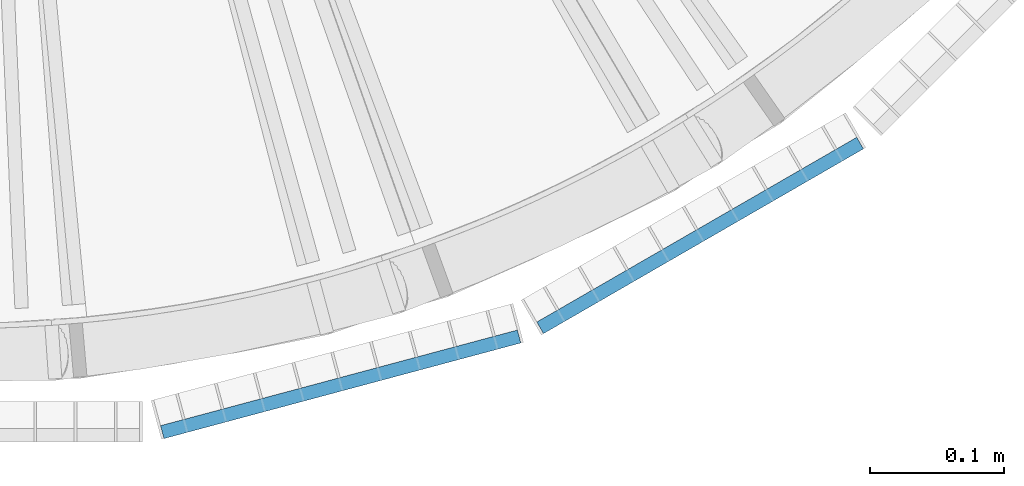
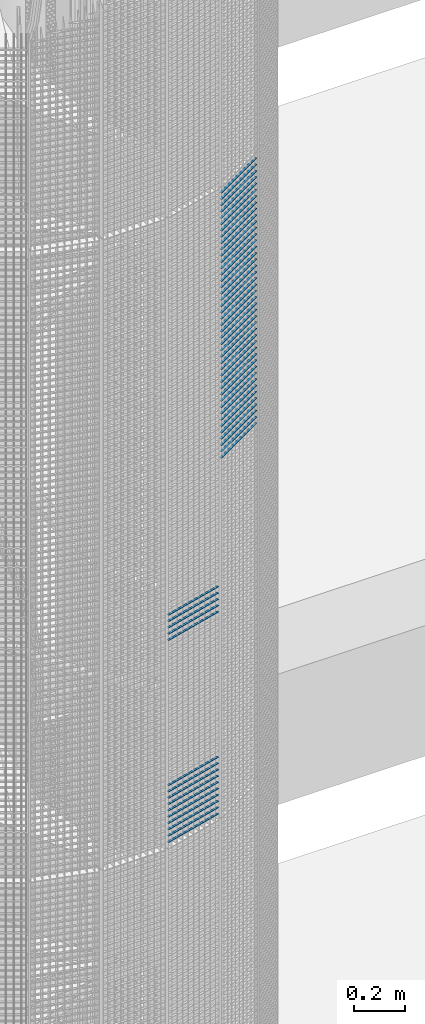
# One storey, part 400 of 1183: 58 beams, 2 elements without a shape of their own.
"""IFC2X3 building model written with IfcOpenShell, lengths in millimetres."""

from ifc_helpers import new_model, si_unit, frame, origin_with_axes, origin_2d_with_axis, place, context, subcontext, project, spatial, rectangle, extrude, material, type_object, element, aggregate, save


model = new_model("IFC2X3")

# Units and contexts
model_context = context("Model", 3, precision=1e-05, world=origin_with_axes())
body_context = subcontext(model_context, "Body", "Model", "MODEL_VIEW")
ifc_project = project(units=[si_unit("LENGTHUNIT", "METRE", prefix="MILLI"), si_unit("AREAUNIT", "SQUARE_METRE"), si_unit("VOLUMEUNIT", "CUBIC_METRE"), si_unit("MASSUNIT", "GRAM", prefix="KILO"), si_unit("TIMEUNIT", "SECOND"), si_unit("PLANEANGLEUNIT", "RADIAN"), si_unit("SOLIDANGLEUNIT", "STERADIAN"), si_unit("THERMODYNAMICTEMPERATUREUNIT", "DEGREE_CELSIUS"), si_unit("LUMINOUSINTENSITYUNIT", "LUMEN")], contexts=[model_context])

# Site, building, storey
site_placement = place(None, origin_with_axes())
site = spatial("IfcSite", under=ifc_project, at=site_placement, Name="Undefined", CompositionType="ELEMENT")
building_placement = place(site_placement, origin_with_axes())
building = spatial("IfcBuilding", under=site, at=building_placement, Name="Undefined", CompositionType="ELEMENT")
storey_placement = place(building_placement, origin_with_axes())
storey = spatial("IfcBuildingStorey", under=building, at=storey_placement, Name="Undefined", CompositionType="ELEMENT", Elevation=0.0)

# Assembly, beams
assembly_1_placement = place(storey_placement, origin_with_axes())
assembly_1 = element("IfcElementAssembly", 1, at=assembly_1_placement, inside=storey, Name="BORDURE", AssemblyPlace="NOTDEFINED", PredefinedType="NOTDEFINED")
ifc_material = material(Name="STEEL/S235JR")
beam_type = type_object("IfcBeamType", Name="PL2*10", PredefinedType="NOTDEFINED")
beam_1_placement = place(assembly_1_placement, frame((22021.4837339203, -1039.82309522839, 12300.0), z_axis=(0.258819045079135, -0.965925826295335, 0.0), x_axis=(-0.965925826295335, -0.258819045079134, 0.0)))
beam_1 = element("IfcBeam", 2, at=beam_1_placement, type_object=beam_type, material=ifc_material, Name="ENTRETOISE", context=body_context, shape_type="SweptSolid", body=[
    extrude(rectangle(XDim=2.0, YDim=10.0, at=origin_2d_with_axis()), frame((275.999999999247, 9.09494701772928e-13, 1.53210777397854e-14), z_axis=(-1.0, 0.0, 0.0), x_axis=(0.0, -1.0, 0.0)), (0.0, 0.0, 1.0), 276.0),
])
beam_2_placement = place(assembly_1_placement, frame((22021.4837339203, -1039.82309522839, 12270.0), z_axis=(0.258819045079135, -0.965925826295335, 0.0), x_axis=(-0.965925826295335, -0.258819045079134, 0.0)))
beam_2 = element("IfcBeam", 3, at=beam_2_placement, type_object=beam_type, material=ifc_material, Name="ENTRETOISE", context=body_context, shape_type="SweptSolid", body=[
    extrude(rectangle(XDim=2.0, YDim=10.0, at=origin_2d_with_axis()), frame((275.999999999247, 9.09494701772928e-13, 1.53210777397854e-14), z_axis=(-1.0, 0.0, 0.0), x_axis=(0.0, -1.0, 0.0)), (0.0, 0.0, 1.0), 276.0),
])
beam_3_placement = place(assembly_1_placement, frame((22021.4837339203, -1039.82309522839, 12990.0), z_axis=(0.258819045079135, -0.965925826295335, 0.0), x_axis=(-0.965925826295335, -0.258819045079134, 0.0)))
beam_3 = element("IfcBeam", 4, at=beam_3_placement, type_object=beam_type, material=ifc_material, Name="ENTRETOISE", context=body_context, shape_type="SweptSolid", body=[
    extrude(rectangle(XDim=2.0, YDim=10.0, at=origin_2d_with_axis()), frame((275.999999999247, 9.09494701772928e-13, 1.53210777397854e-14), z_axis=(-1.0, 0.0, 0.0), x_axis=(0.0, -1.0, 0.0)), (0.0, 0.0, 1.0), 276.0),
])
beam_4_placement = place(assembly_1_placement, frame((22021.4837339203, -1039.82309522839, 12240.0), z_axis=(0.258819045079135, -0.965925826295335, 0.0), x_axis=(-0.965925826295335, -0.258819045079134, 0.0)))
beam_4 = element("IfcBeam", 5, at=beam_4_placement, type_object=beam_type, material=ifc_material, Name="ENTRETOISE", context=body_context, shape_type="SweptSolid", body=[
    extrude(rectangle(XDim=2.0, YDim=10.0, at=origin_2d_with_axis()), frame((275.999999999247, 9.09494701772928e-13, 1.53210777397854e-14), z_axis=(-1.0, 0.0, 0.0), x_axis=(0.0, -1.0, 0.0)), (0.0, 0.0, 1.0), 276.0),
])
beam_5_placement = place(assembly_1_placement, frame((22021.4837339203, -1039.82309522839, 13020.0), z_axis=(0.258819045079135, -0.965925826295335, 0.0), x_axis=(-0.965925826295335, -0.258819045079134, 0.0)))
beam_5 = element("IfcBeam", 6, at=beam_5_placement, type_object=beam_type, material=ifc_material, Name="ENTRETOISE", context=body_context, shape_type="SweptSolid", body=[
    extrude(rectangle(XDim=2.0, YDim=10.0, at=origin_2d_with_axis()), frame((275.999999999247, 9.09494701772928e-13, 1.53210777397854e-14), z_axis=(-1.0, 0.0, 0.0), x_axis=(0.0, -1.0, 0.0)), (0.0, 0.0, 1.0), 276.0),
])
beam_6_placement = place(assembly_1_placement, frame((22021.4837339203, -1039.82309522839, 12210.0), z_axis=(0.258819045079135, -0.965925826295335, 0.0), x_axis=(-0.965925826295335, -0.258819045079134, 0.0)))
beam_6 = element("IfcBeam", 7, at=beam_6_placement, type_object=beam_type, material=ifc_material, Name="ENTRETOISE", context=body_context, shape_type="SweptSolid", body=[
    extrude(rectangle(XDim=2.0, YDim=10.0, at=origin_2d_with_axis()), frame((275.999999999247, 9.09494701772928e-13, 1.53210777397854e-14), z_axis=(-1.0, 0.0, 0.0), x_axis=(0.0, -1.0, 0.0)), (0.0, 0.0, 1.0), 276.0),
])
beam_7_placement = place(assembly_1_placement, frame((22021.4837339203, -1039.82309522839, 12180.0), z_axis=(0.258819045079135, -0.965925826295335, 0.0), x_axis=(-0.965925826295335, -0.258819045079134, 0.0)))
beam_7 = element("IfcBeam", 8, at=beam_7_placement, type_object=beam_type, material=ifc_material, Name="ENTRETOISE", context=body_context, shape_type="SweptSolid", body=[
    extrude(rectangle(XDim=2.0, YDim=10.0, at=origin_2d_with_axis()), frame((275.999999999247, 9.09494701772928e-13, 1.53210777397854e-14), z_axis=(-1.0, 0.0, 0.0), x_axis=(0.0, -1.0, 0.0)), (0.0, 0.0, 1.0), 276.0),
])
beam_8_placement = place(assembly_1_placement, frame((22021.4837339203, -1039.82309522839, 13050.0), z_axis=(0.258819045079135, -0.965925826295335, 0.0), x_axis=(-0.965925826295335, -0.258819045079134, 0.0)))
beam_8 = element("IfcBeam", 9, at=beam_8_placement, type_object=beam_type, material=ifc_material, Name="ENTRETOISE", context=body_context, shape_type="SweptSolid", body=[
    extrude(rectangle(XDim=2.0, YDim=10.0, at=origin_2d_with_axis()), frame((275.999999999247, 9.09494701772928e-13, 1.53210777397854e-14), z_axis=(-1.0, 0.0, 0.0), x_axis=(0.0, -1.0, 0.0)), (0.0, 0.0, 1.0), 276.0),
])
beam_9_placement = place(assembly_1_placement, frame((22021.4837339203, -1039.82309522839, 12150.0), z_axis=(0.258819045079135, -0.965925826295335, 0.0), x_axis=(-0.965925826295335, -0.258819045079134, 0.0)))
beam_9 = element("IfcBeam", 10, at=beam_9_placement, type_object=beam_type, material=ifc_material, Name="ENTRETOISE", context=body_context, shape_type="SweptSolid", body=[
    extrude(rectangle(XDim=2.0, YDim=10.0, at=origin_2d_with_axis()), frame((275.999999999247, 9.09494701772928e-13, 1.53210777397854e-14), z_axis=(-1.0, 0.0, 0.0), x_axis=(0.0, -1.0, 0.0)), (0.0, 0.0, 1.0), 276.0),
])
beam_10_placement = place(assembly_1_placement, frame((22021.4837339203, -1039.82309522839, 12120.0), z_axis=(0.258819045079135, -0.965925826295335, 0.0), x_axis=(-0.965925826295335, -0.258819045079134, 0.0)))
beam_10 = element("IfcBeam", 11, at=beam_10_placement, type_object=beam_type, material=ifc_material, Name="ENTRETOISE", context=body_context, shape_type="SweptSolid", body=[
    extrude(rectangle(XDim=2.0, YDim=10.0, at=origin_2d_with_axis()), frame((275.999999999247, 9.09494701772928e-13, 1.53210777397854e-14), z_axis=(-1.0, 0.0, 0.0), x_axis=(0.0, -1.0, 0.0)), (0.0, 0.0, 1.0), 276.0),
])
beam_11_placement = place(assembly_1_placement, frame((22021.4837339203, -1039.82309522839, 13080.0), z_axis=(0.258819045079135, -0.965925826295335, 0.0), x_axis=(-0.965925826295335, -0.258819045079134, 0.0)))
beam_11 = element("IfcBeam", 12, at=beam_11_placement, type_object=beam_type, material=ifc_material, Name="ENTRETOISE", context=body_context, shape_type="SweptSolid", body=[
    extrude(rectangle(XDim=2.0, YDim=10.0, at=origin_2d_with_axis()), frame((275.999999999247, 9.09494701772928e-13, 1.53210777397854e-14), z_axis=(-1.0, 0.0, 0.0), x_axis=(0.0, -1.0, 0.0)), (0.0, 0.0, 1.0), 276.0),
])
beam_12_placement = place(assembly_1_placement, frame((22021.4837339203, -1039.82309522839, 12090.0), z_axis=(0.258819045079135, -0.965925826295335, 0.0), x_axis=(-0.965925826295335, -0.258819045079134, 0.0)))
beam_12 = element("IfcBeam", 13, at=beam_12_placement, type_object=beam_type, material=ifc_material, Name="ENTRETOISE", context=body_context, shape_type="SweptSolid", body=[
    extrude(rectangle(XDim=2.0, YDim=10.0, at=origin_2d_with_axis()), frame((275.999999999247, 9.09494701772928e-13, 1.53210777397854e-14), z_axis=(-1.0, 0.0, 0.0), x_axis=(0.0, -1.0, 0.0)), (0.0, 0.0, 1.0), 276.0),
])
beam_13_placement = place(assembly_1_placement, frame((22021.4837339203, -1039.82309522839, 12060.0), z_axis=(0.258819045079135, -0.965925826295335, 0.0), x_axis=(-0.965925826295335, -0.258819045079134, 0.0)))
beam_13 = element("IfcBeam", 14, at=beam_13_placement, type_object=beam_type, material=ifc_material, Name="ENTRETOISE", context=body_context, shape_type="SweptSolid", body=[
    extrude(rectangle(XDim=2.0, YDim=10.0, at=origin_2d_with_axis()), frame((275.999999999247, 9.09494701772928e-13, 1.53210777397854e-14), z_axis=(-1.0, 0.0, 0.0), x_axis=(0.0, -1.0, 0.0)), (0.0, 0.0, 1.0), 276.0),
])
beam_14_placement = place(assembly_1_placement, frame((22021.4837339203, -1039.82309522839, 13110.0), z_axis=(0.258819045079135, -0.965925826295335, 0.0), x_axis=(-0.965925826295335, -0.258819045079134, 0.0)))
beam_14 = element("IfcBeam", 15, at=beam_14_placement, type_object=beam_type, material=ifc_material, Name="ENTRETOISE", context=body_context, shape_type="SweptSolid", body=[
    extrude(rectangle(XDim=2.0, YDim=10.0, at=origin_2d_with_axis()), frame((275.999999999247, 9.09494701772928e-13, 1.53210777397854e-14), z_axis=(-1.0, 0.0, 0.0), x_axis=(0.0, -1.0, 0.0)), (0.0, 0.0, 1.0), 276.0),
])
beam_15_placement = place(assembly_1_placement, frame((22021.4837339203, -1039.82309522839, 12030.0), z_axis=(0.258819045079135, -0.965925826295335, 0.0), x_axis=(-0.965925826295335, -0.258819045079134, 0.0)))
beam_15 = element("IfcBeam", 16, at=beam_15_placement, type_object=beam_type, material=ifc_material, Name="ENTRETOISE", context=body_context, shape_type="SweptSolid", body=[
    extrude(rectangle(XDim=2.0, YDim=10.0, at=origin_2d_with_axis()), frame((275.999999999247, 9.09494701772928e-13, 1.53210777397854e-14), z_axis=(-1.0, 0.0, 0.0), x_axis=(0.0, -1.0, 0.0)), (0.0, 0.0, 1.0), 276.0),
])
aggregate(assembly_1, [beam_1, beam_2, beam_3, beam_4, beam_5, beam_6, beam_7, beam_8, beam_9, beam_10, beam_11, beam_12, beam_13, beam_14, beam_15])

assembly_2_placement = place(storey_placement, origin_with_axes())
assembly_2 = element("IfcElementAssembly", 17, at=assembly_2_placement, inside=storey, Name="BORDURE", AssemblyPlace="NOTDEFINED", PredefinedType="NOTDEFINED")
beam_16_placement = place(assembly_2_placement, frame((22276.2480445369, -895.303964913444, 14970.0), z_axis=(0.499999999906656, -0.866025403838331, 0.0), x_axis=(-0.866025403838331, -0.499999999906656, 0.0)))
beam_16 = element("IfcBeam", 18, at=beam_16_placement, type_object=beam_type, material=ifc_material, Name="ENTRETOISE", context=body_context, shape_type="SweptSolid", body=[
    extrude(rectangle(XDim=2.0, YDim=10.0, at=origin_2d_with_axis()), frame((275.999999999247, 9.09494701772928e-13, 1.53210777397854e-14), z_axis=(-1.0, 0.0, 0.0), x_axis=(0.0, -1.0, 0.0)), (0.0, 0.0, 1.0), 276.0),
])
beam_17_placement = place(assembly_2_placement, frame((22276.2480445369, -895.303964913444, 14940.0), z_axis=(0.499999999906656, -0.866025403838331, 0.0), x_axis=(-0.866025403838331, -0.499999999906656, 0.0)))
beam_17 = element("IfcBeam", 19, at=beam_17_placement, type_object=beam_type, material=ifc_material, Name="ENTRETOISE", context=body_context, shape_type="SweptSolid", body=[
    extrude(rectangle(XDim=2.0, YDim=10.0, at=origin_2d_with_axis()), frame((275.999999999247, 9.09494701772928e-13, 1.53210777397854e-14), z_axis=(-1.0, 0.0, 0.0), x_axis=(0.0, -1.0, 0.0)), (0.0, 0.0, 1.0), 276.0),
])
beam_18_placement = place(assembly_2_placement, frame((22276.2480445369, -895.303964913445, 14910.0), z_axis=(0.499999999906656, -0.866025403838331, 0.0), x_axis=(-0.866025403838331, -0.499999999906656, 0.0)))
beam_18 = element("IfcBeam", 20, at=beam_18_placement, type_object=beam_type, material=ifc_material, Name="ENTRETOISE", context=body_context, shape_type="SweptSolid", body=[
    extrude(rectangle(XDim=2.0, YDim=10.0, at=origin_2d_with_axis()), frame((275.999999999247, 9.09494701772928e-13, 1.53210777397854e-14), z_axis=(-1.0, 0.0, 0.0), x_axis=(0.0, -1.0, 0.0)), (0.0, 0.0, 1.0), 276.0),
])
beam_19_placement = place(assembly_2_placement, frame((22276.2480445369, -895.303964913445, 14880.0), z_axis=(0.499999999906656, -0.866025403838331, 0.0), x_axis=(-0.866025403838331, -0.499999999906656, 0.0)))
beam_19 = element("IfcBeam", 21, at=beam_19_placement, type_object=beam_type, material=ifc_material, Name="ENTRETOISE", context=body_context, shape_type="SweptSolid", body=[
    extrude(rectangle(XDim=2.0, YDim=10.0, at=origin_2d_with_axis()), frame((275.999999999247, 9.09494701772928e-13, 1.53210777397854e-14), z_axis=(-1.0, 0.0, 0.0), x_axis=(0.0, -1.0, 0.0)), (0.0, 0.0, 1.0), 276.0),
])
beam_20_placement = place(assembly_2_placement, frame((22276.2480445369, -895.303964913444, 14850.0), z_axis=(0.499999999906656, -0.866025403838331, 0.0), x_axis=(-0.866025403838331, -0.499999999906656, 0.0)))
beam_20 = element("IfcBeam", 22, at=beam_20_placement, type_object=beam_type, material=ifc_material, Name="ENTRETOISE", context=body_context, shape_type="SweptSolid", body=[
    extrude(rectangle(XDim=2.0, YDim=10.0, at=origin_2d_with_axis()), frame((275.999999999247, 9.09494701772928e-13, 1.53210777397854e-14), z_axis=(-1.0, 0.0, 0.0), x_axis=(0.0, -1.0, 0.0)), (0.0, 0.0, 1.0), 276.0),
])
beam_21_placement = place(assembly_2_placement, frame((22276.2480445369, -895.303964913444, 14820.0), z_axis=(0.499999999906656, -0.866025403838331, 0.0), x_axis=(-0.866025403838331, -0.499999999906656, 0.0)))
beam_21 = element("IfcBeam", 23, at=beam_21_placement, type_object=beam_type, material=ifc_material, Name="ENTRETOISE", context=body_context, shape_type="SweptSolid", body=[
    extrude(rectangle(XDim=2.0, YDim=10.0, at=origin_2d_with_axis()), frame((275.999999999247, 9.09494701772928e-13, 1.53210777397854e-14), z_axis=(-1.0, 0.0, 0.0), x_axis=(0.0, -1.0, 0.0)), (0.0, 0.0, 1.0), 276.0),
])
beam_22_placement = place(assembly_2_placement, frame((22276.2480445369, -895.303964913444, 14790.0), z_axis=(0.499999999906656, -0.866025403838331, 0.0), x_axis=(-0.866025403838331, -0.499999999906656, 0.0)))
beam_22 = element("IfcBeam", 24, at=beam_22_placement, type_object=beam_type, material=ifc_material, Name="ENTRETOISE", context=body_context, shape_type="SweptSolid", body=[
    extrude(rectangle(XDim=2.0, YDim=10.0, at=origin_2d_with_axis()), frame((275.999999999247, 9.09494701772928e-13, 1.53210777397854e-14), z_axis=(-1.0, 0.0, 0.0), x_axis=(0.0, -1.0, 0.0)), (0.0, 0.0, 1.0), 276.0),
])
beam_23_placement = place(assembly_2_placement, frame((22276.2480445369, -895.303964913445, 14760.0), z_axis=(0.499999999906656, -0.866025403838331, 0.0), x_axis=(-0.866025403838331, -0.499999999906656, 0.0)))
beam_23 = element("IfcBeam", 25, at=beam_23_placement, type_object=beam_type, material=ifc_material, Name="ENTRETOISE", context=body_context, shape_type="SweptSolid", body=[
    extrude(rectangle(XDim=2.0, YDim=10.0, at=origin_2d_with_axis()), frame((275.999999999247, 9.09494701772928e-13, 1.53210777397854e-14), z_axis=(-1.0, 0.0, 0.0), x_axis=(0.0, -1.0, 0.0)), (0.0, 0.0, 1.0), 276.0),
])
beam_24_placement = place(assembly_2_placement, frame((22276.2480445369, -895.303964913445, 14730.0), z_axis=(0.499999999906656, -0.866025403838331, 0.0), x_axis=(-0.866025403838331, -0.499999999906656, 0.0)))
beam_24 = element("IfcBeam", 26, at=beam_24_placement, type_object=beam_type, material=ifc_material, Name="ENTRETOISE", context=body_context, shape_type="SweptSolid", body=[
    extrude(rectangle(XDim=2.0, YDim=10.0, at=origin_2d_with_axis()), frame((275.999999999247, 9.09494701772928e-13, 1.53210777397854e-14), z_axis=(-1.0, 0.0, 0.0), x_axis=(0.0, -1.0, 0.0)), (0.0, 0.0, 1.0), 276.0),
])
beam_25_placement = place(assembly_2_placement, frame((22276.2480445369, -895.303964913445, 14700.0), z_axis=(0.499999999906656, -0.866025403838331, 0.0), x_axis=(-0.866025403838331, -0.499999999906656, 0.0)))
beam_25 = element("IfcBeam", 27, at=beam_25_placement, type_object=beam_type, material=ifc_material, Name="ENTRETOISE", context=body_context, shape_type="SweptSolid", body=[
    extrude(rectangle(XDim=2.0, YDim=10.0, at=origin_2d_with_axis()), frame((275.999999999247, 9.09494701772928e-13, 1.53210777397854e-14), z_axis=(-1.0, 0.0, 0.0), x_axis=(0.0, -1.0, 0.0)), (0.0, 0.0, 1.0), 276.0),
])
beam_26_placement = place(assembly_2_placement, frame((22276.2480445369, -895.303964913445, 14670.0), z_axis=(0.499999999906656, -0.866025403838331, 0.0), x_axis=(-0.866025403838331, -0.499999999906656, 0.0)))
beam_26 = element("IfcBeam", 28, at=beam_26_placement, type_object=beam_type, material=ifc_material, Name="ENTRETOISE", context=body_context, shape_type="SweptSolid", body=[
    extrude(rectangle(XDim=2.0, YDim=10.0, at=origin_2d_with_axis()), frame((275.999999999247, 9.09494701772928e-13, 1.53210777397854e-14), z_axis=(-1.0, 0.0, 0.0), x_axis=(0.0, -1.0, 0.0)), (0.0, 0.0, 1.0), 276.0),
])
beam_27_placement = place(assembly_2_placement, frame((22276.2480445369, -895.303964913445, 14640.0), z_axis=(0.499999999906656, -0.866025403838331, 0.0), x_axis=(-0.866025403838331, -0.499999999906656, 0.0)))
beam_27 = element("IfcBeam", 29, at=beam_27_placement, type_object=beam_type, material=ifc_material, Name="ENTRETOISE", context=body_context, shape_type="SweptSolid", body=[
    extrude(rectangle(XDim=2.0, YDim=10.0, at=origin_2d_with_axis()), frame((275.999999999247, 9.09494701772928e-13, 1.53210777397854e-14), z_axis=(-1.0, 0.0, 0.0), x_axis=(0.0, -1.0, 0.0)), (0.0, 0.0, 1.0), 276.0),
])
beam_28_placement = place(assembly_2_placement, frame((22276.2480445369, -895.303964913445, 14610.0), z_axis=(0.499999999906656, -0.866025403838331, 0.0), x_axis=(-0.866025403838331, -0.499999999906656, 0.0)))
beam_28 = element("IfcBeam", 30, at=beam_28_placement, type_object=beam_type, material=ifc_material, Name="ENTRETOISE", context=body_context, shape_type="SweptSolid", body=[
    extrude(rectangle(XDim=2.0, YDim=10.0, at=origin_2d_with_axis()), frame((275.999999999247, 9.09494701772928e-13, 1.53210777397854e-14), z_axis=(-1.0, 0.0, 0.0), x_axis=(0.0, -1.0, 0.0)), (0.0, 0.0, 1.0), 276.0),
])
beam_29_placement = place(assembly_2_placement, frame((22276.2480445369, -895.303964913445, 14580.0), z_axis=(0.499999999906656, -0.866025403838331, 0.0), x_axis=(-0.866025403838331, -0.499999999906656, 0.0)))
beam_29 = element("IfcBeam", 31, at=beam_29_placement, type_object=beam_type, material=ifc_material, Name="ENTRETOISE", context=body_context, shape_type="SweptSolid", body=[
    extrude(rectangle(XDim=2.0, YDim=10.0, at=origin_2d_with_axis()), frame((275.999999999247, 9.09494701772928e-13, 1.53210777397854e-14), z_axis=(-1.0, 0.0, 0.0), x_axis=(0.0, -1.0, 0.0)), (0.0, 0.0, 1.0), 276.0),
])
beam_30_placement = place(assembly_2_placement, frame((22276.2480445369, -895.303964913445, 14550.0), z_axis=(0.499999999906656, -0.866025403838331, 0.0), x_axis=(-0.866025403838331, -0.499999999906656, 0.0)))
beam_30 = element("IfcBeam", 32, at=beam_30_placement, type_object=beam_type, material=ifc_material, Name="ENTRETOISE", context=body_context, shape_type="SweptSolid", body=[
    extrude(rectangle(XDim=2.0, YDim=10.0, at=origin_2d_with_axis()), frame((275.999999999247, 9.09494701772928e-13, 1.53210777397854e-14), z_axis=(-1.0, 0.0, 0.0), x_axis=(0.0, -1.0, 0.0)), (0.0, 0.0, 1.0), 276.0),
])
beam_31_placement = place(assembly_2_placement, frame((22276.2480445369, -895.303964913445, 14520.0), z_axis=(0.499999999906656, -0.866025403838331, 0.0), x_axis=(-0.866025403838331, -0.499999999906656, 0.0)))
beam_31 = element("IfcBeam", 33, at=beam_31_placement, type_object=beam_type, material=ifc_material, Name="ENTRETOISE", context=body_context, shape_type="SweptSolid", body=[
    extrude(rectangle(XDim=2.0, YDim=10.0, at=origin_2d_with_axis()), frame((275.999999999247, 9.09494701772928e-13, 1.53210777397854e-14), z_axis=(-1.0, 0.0, 0.0), x_axis=(0.0, -1.0, 0.0)), (0.0, 0.0, 1.0), 276.0),
])
beam_32_placement = place(assembly_2_placement, frame((22276.2480445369, -895.303964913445, 14490.0), z_axis=(0.499999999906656, -0.866025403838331, 0.0), x_axis=(-0.866025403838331, -0.499999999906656, 0.0)))
beam_32 = element("IfcBeam", 34, at=beam_32_placement, type_object=beam_type, material=ifc_material, Name="ENTRETOISE", context=body_context, shape_type="SweptSolid", body=[
    extrude(rectangle(XDim=2.0, YDim=10.0, at=origin_2d_with_axis()), frame((275.999999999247, 9.09494701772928e-13, 1.53210777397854e-14), z_axis=(-1.0, 0.0, 0.0), x_axis=(0.0, -1.0, 0.0)), (0.0, 0.0, 1.0), 276.0),
])
beam_33_placement = place(assembly_2_placement, frame((22276.2480445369, -895.303964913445, 14460.0), z_axis=(0.499999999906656, -0.866025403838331, 0.0), x_axis=(-0.866025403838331, -0.499999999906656, 0.0)))
beam_33 = element("IfcBeam", 35, at=beam_33_placement, type_object=beam_type, material=ifc_material, Name="ENTRETOISE", context=body_context, shape_type="SweptSolid", body=[
    extrude(rectangle(XDim=2.0, YDim=10.0, at=origin_2d_with_axis()), frame((275.999999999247, 9.09494701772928e-13, 1.53210777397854e-14), z_axis=(-1.0, 0.0, 0.0), x_axis=(0.0, -1.0, 0.0)), (0.0, 0.0, 1.0), 276.0),
])
beam_34_placement = place(assembly_2_placement, frame((22276.2480445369, -895.303964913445, 14430.0), z_axis=(0.499999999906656, -0.866025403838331, 0.0), x_axis=(-0.866025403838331, -0.499999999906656, 0.0)))
beam_34 = element("IfcBeam", 36, at=beam_34_placement, type_object=beam_type, material=ifc_material, Name="ENTRETOISE", context=body_context, shape_type="SweptSolid", body=[
    extrude(rectangle(XDim=2.0, YDim=10.0, at=origin_2d_with_axis()), frame((275.999999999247, 9.09494701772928e-13, 1.53210777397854e-14), z_axis=(-1.0, 0.0, 0.0), x_axis=(0.0, -1.0, 0.0)), (0.0, 0.0, 1.0), 276.0),
])
beam_35_placement = place(assembly_2_placement, frame((22276.2480445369, -895.303964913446, 14400.0), z_axis=(0.499999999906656, -0.866025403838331, 0.0), x_axis=(-0.866025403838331, -0.499999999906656, 0.0)))
beam_35 = element("IfcBeam", 37, at=beam_35_placement, type_object=beam_type, material=ifc_material, Name="ENTRETOISE", context=body_context, shape_type="SweptSolid", body=[
    extrude(rectangle(XDim=2.0, YDim=10.0, at=origin_2d_with_axis()), frame((275.999999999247, 9.09494701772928e-13, 1.53210777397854e-14), z_axis=(-1.0, 0.0, 0.0), x_axis=(0.0, -1.0, 0.0)), (0.0, 0.0, 1.0), 276.0),
])
beam_36_placement = place(assembly_2_placement, frame((22276.2480445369, -895.303964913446, 14370.0), z_axis=(0.499999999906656, -0.866025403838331, 0.0), x_axis=(-0.866025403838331, -0.499999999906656, 0.0)))
beam_36 = element("IfcBeam", 38, at=beam_36_placement, type_object=beam_type, material=ifc_material, Name="ENTRETOISE", context=body_context, shape_type="SweptSolid", body=[
    extrude(rectangle(XDim=2.0, YDim=10.0, at=origin_2d_with_axis()), frame((275.999999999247, 9.09494701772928e-13, 1.53210777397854e-14), z_axis=(-1.0, 0.0, 0.0), x_axis=(0.0, -1.0, 0.0)), (0.0, 0.0, 1.0), 276.0),
])
beam_37_placement = place(assembly_2_placement, frame((22276.2480445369, -895.303964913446, 14340.0), z_axis=(0.499999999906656, -0.866025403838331, 0.0), x_axis=(-0.866025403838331, -0.499999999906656, 0.0)))
beam_37 = element("IfcBeam", 39, at=beam_37_placement, type_object=beam_type, material=ifc_material, Name="ENTRETOISE", context=body_context, shape_type="SweptSolid", body=[
    extrude(rectangle(XDim=2.0, YDim=10.0, at=origin_2d_with_axis()), frame((275.999999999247, 9.09494701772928e-13, 1.53210777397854e-14), z_axis=(-1.0, 0.0, 0.0), x_axis=(0.0, -1.0, 0.0)), (0.0, 0.0, 1.0), 276.0),
])
beam_38_placement = place(assembly_2_placement, frame((22276.2480445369, -895.303964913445, 14310.0), z_axis=(0.499999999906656, -0.866025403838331, 0.0), x_axis=(-0.866025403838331, -0.499999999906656, 0.0)))
beam_38 = element("IfcBeam", 40, at=beam_38_placement, type_object=beam_type, material=ifc_material, Name="ENTRETOISE", context=body_context, shape_type="SweptSolid", body=[
    extrude(rectangle(XDim=2.0, YDim=10.0, at=origin_2d_with_axis()), frame((275.999999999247, 9.09494701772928e-13, 1.53210777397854e-14), z_axis=(-1.0, 0.0, 0.0), x_axis=(0.0, -1.0, 0.0)), (0.0, 0.0, 1.0), 276.0),
])
beam_39_placement = place(assembly_2_placement, frame((22276.2480445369, -895.303964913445, 14280.0), z_axis=(0.499999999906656, -0.866025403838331, 0.0), x_axis=(-0.866025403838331, -0.499999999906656, 0.0)))
beam_39 = element("IfcBeam", 41, at=beam_39_placement, type_object=beam_type, material=ifc_material, Name="ENTRETOISE", context=body_context, shape_type="SweptSolid", body=[
    extrude(rectangle(XDim=2.0, YDim=10.0, at=origin_2d_with_axis()), frame((275.999999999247, 9.09494701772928e-13, 1.53210777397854e-14), z_axis=(-1.0, 0.0, 0.0), x_axis=(0.0, -1.0, 0.0)), (0.0, 0.0, 1.0), 276.0),
])
beam_40_placement = place(assembly_2_placement, frame((22276.2480445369, -895.303964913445, 14250.0), z_axis=(0.499999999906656, -0.866025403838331, 0.0), x_axis=(-0.866025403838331, -0.499999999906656, 0.0)))
beam_40 = element("IfcBeam", 42, at=beam_40_placement, type_object=beam_type, material=ifc_material, Name="ENTRETOISE", context=body_context, shape_type="SweptSolid", body=[
    extrude(rectangle(XDim=2.0, YDim=10.0, at=origin_2d_with_axis()), frame((275.999999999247, 9.09494701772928e-13, 1.53210777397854e-14), z_axis=(-1.0, 0.0, 0.0), x_axis=(0.0, -1.0, 0.0)), (0.0, 0.0, 1.0), 276.0),
])
beam_41_placement = place(assembly_2_placement, frame((22276.2480445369, -895.303964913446, 14220.0), z_axis=(0.499999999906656, -0.866025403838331, 0.0), x_axis=(-0.866025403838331, -0.499999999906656, 0.0)))
beam_41 = element("IfcBeam", 43, at=beam_41_placement, type_object=beam_type, material=ifc_material, Name="ENTRETOISE", context=body_context, shape_type="SweptSolid", body=[
    extrude(rectangle(XDim=2.0, YDim=10.0, at=origin_2d_with_axis()), frame((275.999999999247, 9.09494701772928e-13, 1.53210777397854e-14), z_axis=(-1.0, 0.0, 0.0), x_axis=(0.0, -1.0, 0.0)), (0.0, 0.0, 1.0), 276.0),
])
beam_42_placement = place(assembly_2_placement, frame((22276.2480445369, -895.303964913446, 14190.0), z_axis=(0.499999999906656, -0.866025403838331, 0.0), x_axis=(-0.866025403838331, -0.499999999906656, 0.0)))
beam_42 = element("IfcBeam", 44, at=beam_42_placement, type_object=beam_type, material=ifc_material, Name="ENTRETOISE", context=body_context, shape_type="SweptSolid", body=[
    extrude(rectangle(XDim=2.0, YDim=10.0, at=origin_2d_with_axis()), frame((275.999999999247, 9.09494701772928e-13, 1.53210777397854e-14), z_axis=(-1.0, 0.0, 0.0), x_axis=(0.0, -1.0, 0.0)), (0.0, 0.0, 1.0), 276.0),
])
beam_43_placement = place(assembly_2_placement, frame((22276.2480445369, -895.303964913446, 14160.0), z_axis=(0.499999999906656, -0.866025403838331, 0.0), x_axis=(-0.866025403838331, -0.499999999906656, 0.0)))
beam_43 = element("IfcBeam", 45, at=beam_43_placement, type_object=beam_type, material=ifc_material, Name="ENTRETOISE", context=body_context, shape_type="SweptSolid", body=[
    extrude(rectangle(XDim=2.0, YDim=10.0, at=origin_2d_with_axis()), frame((275.999999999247, 9.09494701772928e-13, 1.53210777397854e-14), z_axis=(-1.0, 0.0, 0.0), x_axis=(0.0, -1.0, 0.0)), (0.0, 0.0, 1.0), 276.0),
])
beam_44_placement = place(assembly_2_placement, frame((22276.2480445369, -895.303964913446, 14130.0), z_axis=(0.499999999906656, -0.866025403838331, 0.0), x_axis=(-0.866025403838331, -0.499999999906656, 0.0)))
beam_44 = element("IfcBeam", 46, at=beam_44_placement, type_object=beam_type, material=ifc_material, Name="ENTRETOISE", context=body_context, shape_type="SweptSolid", body=[
    extrude(rectangle(XDim=2.0, YDim=10.0, at=origin_2d_with_axis()), frame((275.999999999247, 9.09494701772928e-13, 1.53210777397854e-14), z_axis=(-1.0, 0.0, 0.0), x_axis=(0.0, -1.0, 0.0)), (0.0, 0.0, 1.0), 276.0),
])
beam_45_placement = place(assembly_2_placement, frame((22276.2480445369, -895.303964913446, 14100.0), z_axis=(0.499999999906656, -0.866025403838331, 0.0), x_axis=(-0.866025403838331, -0.499999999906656, 0.0)))
beam_45 = element("IfcBeam", 47, at=beam_45_placement, type_object=beam_type, material=ifc_material, Name="ENTRETOISE", context=body_context, shape_type="SweptSolid", body=[
    extrude(rectangle(XDim=2.0, YDim=10.0, at=origin_2d_with_axis()), frame((275.999999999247, 9.09494701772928e-13, 1.53210777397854e-14), z_axis=(-1.0, 0.0, 0.0), x_axis=(0.0, -1.0, 0.0)), (0.0, 0.0, 1.0), 276.0),
])
beam_46_placement = place(assembly_2_placement, frame((22276.2480445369, -895.303964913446, 14070.0), z_axis=(0.499999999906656, -0.866025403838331, 0.0), x_axis=(-0.866025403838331, -0.499999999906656, 0.0)))
beam_46 = element("IfcBeam", 48, at=beam_46_placement, type_object=beam_type, material=ifc_material, Name="ENTRETOISE", context=body_context, shape_type="SweptSolid", body=[
    extrude(rectangle(XDim=2.0, YDim=10.0, at=origin_2d_with_axis()), frame((275.999999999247, 9.09494701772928e-13, 1.53210777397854e-14), z_axis=(-1.0, 0.0, 0.0), x_axis=(0.0, -1.0, 0.0)), (0.0, 0.0, 1.0), 276.0),
])
beam_47_placement = place(assembly_2_placement, frame((22276.2480445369, -895.303964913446, 14040.0), z_axis=(0.499999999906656, -0.866025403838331, 0.0), x_axis=(-0.866025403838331, -0.499999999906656, 0.0)))
beam_47 = element("IfcBeam", 49, at=beam_47_placement, type_object=beam_type, material=ifc_material, Name="ENTRETOISE", context=body_context, shape_type="SweptSolid", body=[
    extrude(rectangle(XDim=2.0, YDim=10.0, at=origin_2d_with_axis()), frame((275.999999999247, 9.09494701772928e-13, 1.53210777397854e-14), z_axis=(-1.0, 0.0, 0.0), x_axis=(0.0, -1.0, 0.0)), (0.0, 0.0, 1.0), 276.0),
])
beam_48_placement = place(assembly_2_placement, frame((22276.2480445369, -895.303964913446, 14010.0), z_axis=(0.499999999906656, -0.866025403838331, 0.0), x_axis=(-0.866025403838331, -0.499999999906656, 0.0)))
beam_48 = element("IfcBeam", 50, at=beam_48_placement, type_object=beam_type, material=ifc_material, Name="ENTRETOISE", context=body_context, shape_type="SweptSolid", body=[
    extrude(rectangle(XDim=2.0, YDim=10.0, at=origin_2d_with_axis()), frame((275.999999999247, 9.09494701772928e-13, 1.53210777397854e-14), z_axis=(-1.0, 0.0, 0.0), x_axis=(0.0, -1.0, 0.0)), (0.0, 0.0, 1.0), 276.0),
])
beam_49_placement = place(assembly_2_placement, frame((22276.2480445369, -895.303964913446, 13980.0), z_axis=(0.499999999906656, -0.866025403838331, 0.0), x_axis=(-0.866025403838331, -0.499999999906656, 0.0)))
beam_49 = element("IfcBeam", 51, at=beam_49_placement, type_object=beam_type, material=ifc_material, Name="ENTRETOISE", context=body_context, shape_type="SweptSolid", body=[
    extrude(rectangle(XDim=2.0, YDim=10.0, at=origin_2d_with_axis()), frame((275.999999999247, 9.09494701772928e-13, 1.53210777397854e-14), z_axis=(-1.0, 0.0, 0.0), x_axis=(0.0, -1.0, 0.0)), (0.0, 0.0, 1.0), 276.0),
])
beam_50_placement = place(assembly_2_placement, frame((22276.2480445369, -895.303964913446, 13950.0), z_axis=(0.499999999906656, -0.866025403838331, 0.0), x_axis=(-0.866025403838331, -0.499999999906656, 0.0)))
beam_50 = element("IfcBeam", 52, at=beam_50_placement, type_object=beam_type, material=ifc_material, Name="ENTRETOISE", context=body_context, shape_type="SweptSolid", body=[
    extrude(rectangle(XDim=2.0, YDim=10.0, at=origin_2d_with_axis()), frame((275.999999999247, 9.09494701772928e-13, 1.53210777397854e-14), z_axis=(-1.0, 0.0, 0.0), x_axis=(0.0, -1.0, 0.0)), (0.0, 0.0, 1.0), 276.0),
])
beam_51_placement = place(assembly_2_placement, frame((22276.2480445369, -895.303964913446, 13920.0), z_axis=(0.499999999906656, -0.866025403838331, 0.0), x_axis=(-0.866025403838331, -0.499999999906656, 0.0)))
beam_51 = element("IfcBeam", 53, at=beam_51_placement, type_object=beam_type, material=ifc_material, Name="ENTRETOISE", context=body_context, shape_type="SweptSolid", body=[
    extrude(rectangle(XDim=2.0, YDim=10.0, at=origin_2d_with_axis()), frame((275.999999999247, 9.09494701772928e-13, 1.53210777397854e-14), z_axis=(-1.0, 0.0, 0.0), x_axis=(0.0, -1.0, 0.0)), (0.0, 0.0, 1.0), 276.0),
])
beam_52_placement = place(assembly_2_placement, frame((22276.2480445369, -895.303964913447, 13890.0), z_axis=(0.499999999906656, -0.866025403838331, 0.0), x_axis=(-0.866025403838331, -0.499999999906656, 0.0)))
beam_52 = element("IfcBeam", 54, at=beam_52_placement, type_object=beam_type, material=ifc_material, Name="ENTRETOISE", context=body_context, shape_type="SweptSolid", body=[
    extrude(rectangle(XDim=2.0, YDim=10.0, at=origin_2d_with_axis()), frame((275.999999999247, 9.09494701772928e-13, 1.53210777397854e-14), z_axis=(-1.0, 0.0, 0.0), x_axis=(0.0, -1.0, 0.0)), (0.0, 0.0, 1.0), 276.0),
])
beam_53_placement = place(assembly_2_placement, frame((22276.2480445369, -895.303964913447, 13860.0), z_axis=(0.499999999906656, -0.866025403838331, 0.0), x_axis=(-0.866025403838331, -0.499999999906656, 0.0)))
beam_53 = element("IfcBeam", 55, at=beam_53_placement, type_object=beam_type, material=ifc_material, Name="ENTRETOISE", context=body_context, shape_type="SweptSolid", body=[
    extrude(rectangle(XDim=2.0, YDim=10.0, at=origin_2d_with_axis()), frame((275.999999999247, 9.09494701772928e-13, 1.53210777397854e-14), z_axis=(-1.0, 0.0, 0.0), x_axis=(0.0, -1.0, 0.0)), (0.0, 0.0, 1.0), 276.0),
])
beam_54_placement = place(assembly_2_placement, frame((22276.2480445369, -895.303964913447, 13830.0), z_axis=(0.499999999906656, -0.866025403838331, 0.0), x_axis=(-0.866025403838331, -0.499999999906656, 0.0)))
beam_54 = element("IfcBeam", 56, at=beam_54_placement, type_object=beam_type, material=ifc_material, Name="ENTRETOISE", context=body_context, shape_type="SweptSolid", body=[
    extrude(rectangle(XDim=2.0, YDim=10.0, at=origin_2d_with_axis()), frame((275.999999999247, 9.09494701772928e-13, 1.53210777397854e-14), z_axis=(-1.0, 0.0, 0.0), x_axis=(0.0, -1.0, 0.0)), (0.0, 0.0, 1.0), 276.0),
])
beam_55_placement = place(assembly_2_placement, frame((22276.2480445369, -895.303964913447, 13800.0), z_axis=(0.499999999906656, -0.866025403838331, 0.0), x_axis=(-0.866025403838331, -0.499999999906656, 0.0)))
beam_55 = element("IfcBeam", 57, at=beam_55_placement, type_object=beam_type, material=ifc_material, Name="ENTRETOISE", context=body_context, shape_type="SweptSolid", body=[
    extrude(rectangle(XDim=2.0, YDim=10.0, at=origin_2d_with_axis()), frame((275.999999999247, 9.09494701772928e-13, 1.53210777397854e-14), z_axis=(-1.0, 0.0, 0.0), x_axis=(0.0, -1.0, 0.0)), (0.0, 0.0, 1.0), 276.0),
])
beam_56_placement = place(assembly_2_placement, frame((22276.2480445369, -895.303964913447, 13770.0), z_axis=(0.499999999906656, -0.866025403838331, 0.0), x_axis=(-0.866025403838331, -0.499999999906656, 0.0)))
beam_56 = element("IfcBeam", 58, at=beam_56_placement, type_object=beam_type, material=ifc_material, Name="ENTRETOISE", context=body_context, shape_type="SweptSolid", body=[
    extrude(rectangle(XDim=2.0, YDim=10.0, at=origin_2d_with_axis()), frame((275.999999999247, 9.09494701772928e-13, 1.53210777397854e-14), z_axis=(-1.0, 0.0, 0.0), x_axis=(0.0, -1.0, 0.0)), (0.0, 0.0, 1.0), 276.0),
])
beam_57_placement = place(assembly_2_placement, frame((22276.2480445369, -895.303964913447, 13740.0), z_axis=(0.499999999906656, -0.866025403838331, 0.0), x_axis=(-0.866025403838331, -0.499999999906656, 0.0)))
beam_57 = element("IfcBeam", 59, at=beam_57_placement, type_object=beam_type, material=ifc_material, Name="ENTRETOISE", context=body_context, shape_type="SweptSolid", body=[
    extrude(rectangle(XDim=2.0, YDim=10.0, at=origin_2d_with_axis()), frame((275.999999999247, 9.09494701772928e-13, 1.53210777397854e-14), z_axis=(-1.0, 0.0, 0.0), x_axis=(0.0, -1.0, 0.0)), (0.0, 0.0, 1.0), 276.0),
])
beam_58_placement = place(assembly_2_placement, frame((22276.2480445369, -895.303964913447, 13710.0), z_axis=(0.499999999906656, -0.866025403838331, 0.0), x_axis=(-0.866025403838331, -0.499999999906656, 0.0)))
beam_58 = element("IfcBeam", 60, at=beam_58_placement, type_object=beam_type, material=ifc_material, Name="ENTRETOISE", context=body_context, shape_type="SweptSolid", body=[
    extrude(rectangle(XDim=2.0, YDim=10.0, at=origin_2d_with_axis()), frame((275.999999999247, 9.09494701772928e-13, 1.53210777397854e-14), z_axis=(-1.0, 0.0, 0.0), x_axis=(0.0, -1.0, 0.0)), (0.0, 0.0, 1.0), 276.0),
])
aggregate(assembly_2, [beam_16, beam_17, beam_18, beam_19, beam_20, beam_21, beam_22, beam_23, beam_24, beam_25, beam_26, beam_27, beam_28, beam_29, beam_30, beam_31, beam_32, beam_33, beam_34, beam_35, beam_36, beam_37, beam_38, beam_39, beam_40, beam_41, beam_42, beam_43, beam_44, beam_45, beam_46, beam_47, beam_48, beam_49, beam_50, beam_51, beam_52, beam_53, beam_54, beam_55, beam_56, beam_57, beam_58])

save(model, "model.ifc")
